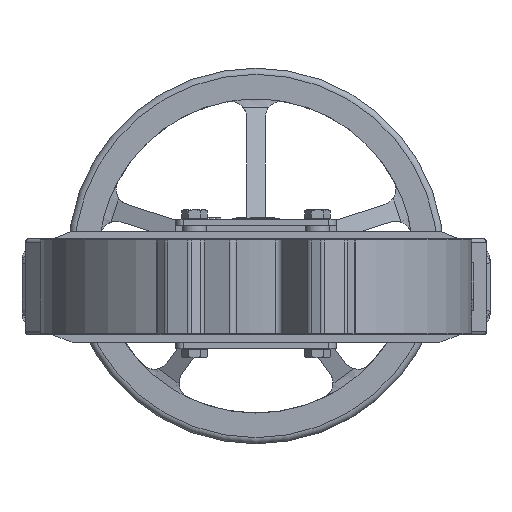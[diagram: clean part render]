
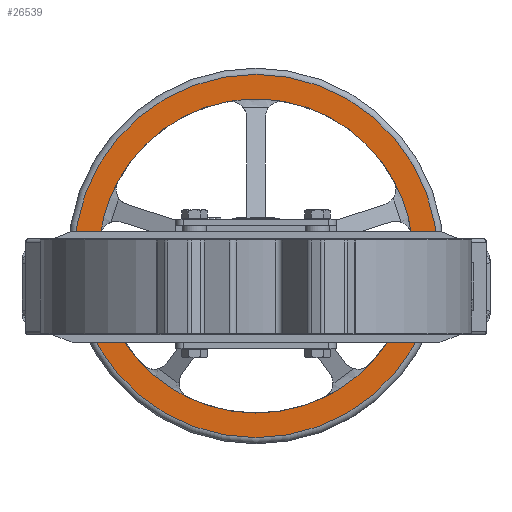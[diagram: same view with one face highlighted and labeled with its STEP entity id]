
A CAD part, front view. The second image highlights one B-rep face of the part: STEP entity #26539.
In plain terms, the highlighted planar face has unit normal (0, -1, 0).
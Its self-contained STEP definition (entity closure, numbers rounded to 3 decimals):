
#22152=CARTESIAN_POINT('',(-126.399,766.0,41.721));
#22153=VERTEX_POINT('',#22152);
#22800=CARTESIAN_POINT('',(-54.962,766.0,-90.045));
#22801=VERTEX_POINT('',#22800);
#23450=CARTESIAN_POINT('',(92.43,766.0,-62.823));
#23451=VERTEX_POINT('',#23450);
#24098=CARTESIAN_POINT('',(112.087,766.0,85.768));
#24099=VERTEX_POINT('',#24098);
#24574=CARTESIAN_POINT('',(-112.087,766.0,85.768));
#24575=VERTEX_POINT('',#24574);
#24595=CARTESIAN_POINT('',(0.,766.0,25.));
#24596=DIRECTION('',(0.0,1.0,0.0));
#24597=DIRECTION('',(1.0,0.0,0.0));
#24598=AXIS2_PLACEMENT_3D('',#24595,#24596,#24597);
#24599=CIRCLE('',#24598,127.5);
#24600=EDGE_CURVE('',#22153,#24575,#24599,.T.);
#24755=CARTESIAN_POINT('',(-92.43,766.0,-62.823));
#24756=VERTEX_POINT('',#24755);
#24776=CARTESIAN_POINT('',(0.,766.0,25.));
#24777=DIRECTION('',(0.0,1.0,0.0));
#24778=DIRECTION('',(1.0,0.0,0.0));
#24779=AXIS2_PLACEMENT_3D('',#24776,#24777,#24778);
#24780=CIRCLE('',#24779,127.5);
#24781=EDGE_CURVE('',#22801,#24756,#24780,.T.);
#24933=CARTESIAN_POINT('',(54.962,766.0,-90.045));
#24934=VERTEX_POINT('',#24933);
#24954=CARTESIAN_POINT('',(0.,766.0,25.));
#24955=DIRECTION('',(0.0,1.0,0.0));
#24956=DIRECTION('',(1.0,0.0,0.0));
#24957=AXIS2_PLACEMENT_3D('',#24954,#24955,#24956);
#24958=CIRCLE('',#24957,127.5);
#24959=EDGE_CURVE('',#23451,#24934,#24958,.T.);
#25114=CARTESIAN_POINT('',(126.399,766.0,41.721));
#25115=VERTEX_POINT('',#25114);
#25135=CARTESIAN_POINT('',(0.,766.0,25.));
#25136=DIRECTION('',(0.0,1.0,0.0));
#25137=DIRECTION('',(1.0,0.0,0.0));
#25138=AXIS2_PLACEMENT_3D('',#25135,#25136,#25137);
#25139=CIRCLE('',#25138,127.5);
#25140=EDGE_CURVE('',#24099,#25115,#25139,.T.);
#25162=CARTESIAN_POINT('',(0.,766.0,25.));
#25163=DIRECTION('',(0.0,1.0,0.0));
#25164=DIRECTION('',(1.0,0.0,0.0));
#25165=AXIS2_PLACEMENT_3D('',#25162,#25163,#25164);
#25166=CIRCLE('',#25165,127.5);
#25167=EDGE_CURVE('',#24756,#22153,#25166,.T.);
#25172=CARTESIAN_POINT('',(0.,766.0,25.));
#25173=DIRECTION('',(0.0,1.0,0.0));
#25174=DIRECTION('',(1.0,0.0,0.0));
#25175=AXIS2_PLACEMENT_3D('',#25172,#25173,#25174);
#25176=CIRCLE('',#25175,127.5);
#25177=EDGE_CURVE('',#24934,#22801,#25176,.T.);
#25182=CARTESIAN_POINT('',(0.,766.0,25.));
#25183=DIRECTION('',(0.0,1.0,0.0));
#25184=DIRECTION('',(1.0,0.0,0.0));
#25185=AXIS2_PLACEMENT_3D('',#25182,#25183,#25184);
#25186=CIRCLE('',#25185,127.5);
#25187=EDGE_CURVE('',#25115,#23451,#25186,.T.);
#25197=CARTESIAN_POINT('',(23.156,766.0,150.38));
#25198=VERTEX_POINT('',#25197);
#25199=CARTESIAN_POINT('',(0.,766.0,25.));
#25200=DIRECTION('',(0.0,1.0,0.0));
#25201=DIRECTION('',(1.0,0.0,0.0));
#25202=AXIS2_PLACEMENT_3D('',#25199,#25200,#25201);
#25203=CIRCLE('',#25202,127.5);
#25204=EDGE_CURVE('',#25198,#24099,#25203,.T.);
#25223=CARTESIAN_POINT('',(-23.156,766.0,150.38));
#25224=VERTEX_POINT('',#25223);
#25231=CARTESIAN_POINT('',(0.,766.0,25.));
#25232=DIRECTION('',(0.0,1.0,0.0));
#25233=DIRECTION('',(1.0,0.0,0.0));
#25234=AXIS2_PLACEMENT_3D('',#25231,#25232,#25233);
#25235=CIRCLE('',#25234,127.5);
#25236=EDGE_CURVE('',#24575,#25224,#25235,.T.);
#26481=CARTESIAN_POINT('',(-147.5,766.0,25.));
#26482=VERTEX_POINT('',#26481);
#26483=CARTESIAN_POINT('',(0.,766.0,25.));
#26484=DIRECTION('',(0.0,1.0,0.0));
#26485=DIRECTION('',(1.0,0.0,0.0));
#26486=AXIS2_PLACEMENT_3D('',#26483,#26484,#26485);
#26487=CIRCLE('',#26486,147.5);
#26488=EDGE_CURVE('',#26482,#26482,#26487,.T.);
#26513=CARTESIAN_POINT('',(0.,766.0,25.));
#26514=DIRECTION('',(0.0,1.0,0.0));
#26515=DIRECTION('',(-1.0,0.0,0.0));
#26516=AXIS2_PLACEMENT_3D('',#26513,#26514,#26515);
#26517=PLANE('',#26516);
#26518=ORIENTED_EDGE('',*,*,#26488,.F.);
#26519=EDGE_LOOP('',(#26518));
#26520=FACE_OUTER_BOUND('',#26519,.T.);
#26521=ORIENTED_EDGE('',*,*,#25204,.T.);
#26522=ORIENTED_EDGE('',*,*,#25140,.T.);
#26523=ORIENTED_EDGE('',*,*,#25187,.T.);
#26524=ORIENTED_EDGE('',*,*,#24959,.T.);
#26525=ORIENTED_EDGE('',*,*,#25177,.T.);
#26526=ORIENTED_EDGE('',*,*,#24781,.T.);
#26527=ORIENTED_EDGE('',*,*,#25167,.T.);
#26528=ORIENTED_EDGE('',*,*,#24600,.T.);
#26529=ORIENTED_EDGE('',*,*,#25236,.T.);
#26530=CARTESIAN_POINT('',(0.,766.0,25.));
#26531=DIRECTION('',(0.0,1.0,0.0));
#26532=DIRECTION('',(1.0,0.0,0.0));
#26533=AXIS2_PLACEMENT_3D('',#26530,#26531,#26532);
#26534=CIRCLE('',#26533,127.5);
#26535=EDGE_CURVE('',#25224,#25198,#26534,.T.);
#26536=ORIENTED_EDGE('',*,*,#26535,.T.);
#26537=EDGE_LOOP('',(#26521,#26522,#26523,#26524,#26525,#26526,#26527,#26528,#26529,#26536));
#26538=FACE_BOUND('',#26537,.T.);
#26539=ADVANCED_FACE('',(#26520,#26538),#26517,.F.);
